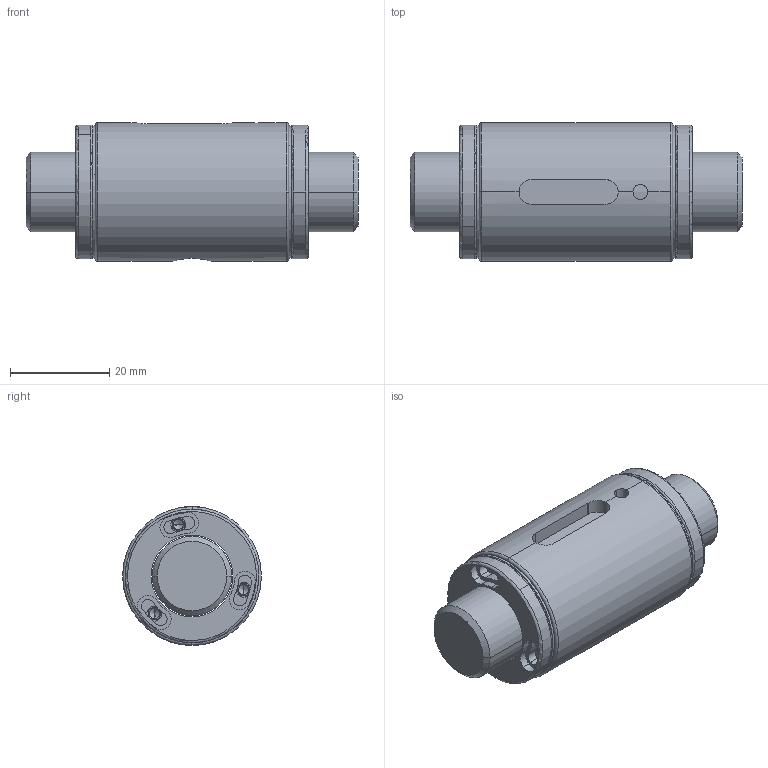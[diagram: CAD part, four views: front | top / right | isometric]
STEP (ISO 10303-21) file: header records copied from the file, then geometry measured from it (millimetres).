
FILE_DESCRIPTION (( 'STEP AP203' ), '1' );
FILE_NAME ('SCHR01610B1-C.STEP', '2020-06-17T08:43:53', ( '' ), ( '' ), 'SwSTEP 2.0', 'SolidWorks 2013', '' );
FILE_SCHEMA (( 'CONFIG_CONTROL_DESIGN' ));
Length unit declared in the file: millimetre
Products named in the file (1): SCHR01610B1-C
Bounding box: 67 x 28 x 28 mm (x, y, z)
Volume: 30915.1 mm3; surface area: 11949.9 mm2
Topology: 2 solids, 2 shells, 194 faces, 481 edges, 299 vertices
Faces by surface type: cylinder 106, plane 48, cone 28, torus 12
Entity records: 6831 total; most frequent: CARTESIAN_POINT 1991, DIRECTION 1124, ORIENTED_EDGE 938, AXIS2_PLACEMENT_3D 490, EDGE_CURVE 469, VERTEX_POINT 299, CIRCLE 295, EDGE_LOOP 218
